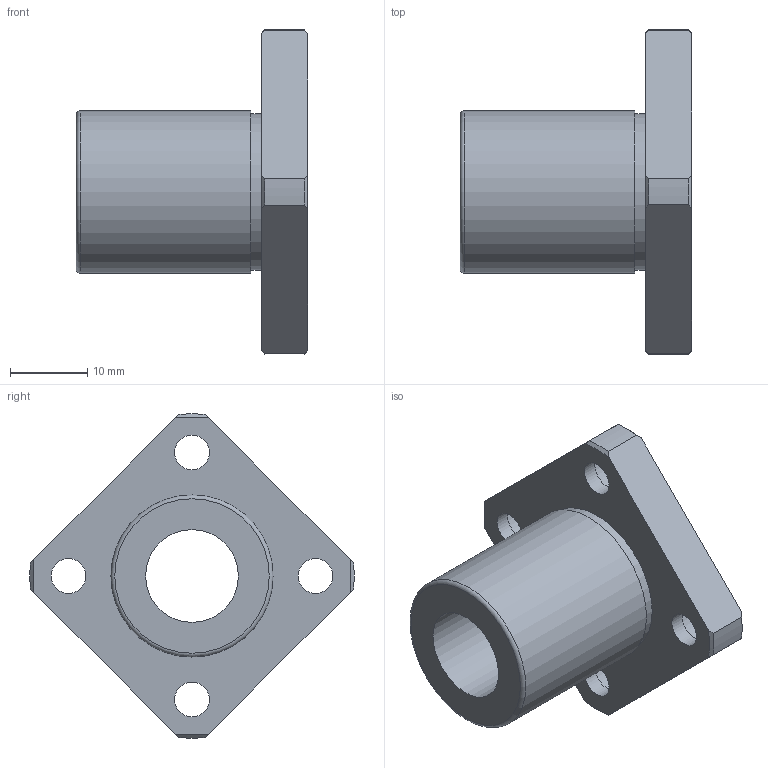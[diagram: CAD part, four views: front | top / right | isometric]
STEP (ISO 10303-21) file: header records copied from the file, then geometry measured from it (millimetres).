
FILE_DESCRIPTION(('STEP AP203'),'1');
FILE_NAME('//192.168.1.1/share/s-4 技術開発/s-4-4_CAD/s-4-4-3_見直し済み/002 修正済み/NF-V/NF-12TVUU.step','2022-03-08T06:43:10',(' '),(' '),'Spatial InterOp 3D',' ',' ');
FILE_SCHEMA(('CONFIG_CONTROL_DESIGN'));
Length unit declared in the file: millimetre
Products named in the file (1): 1
Bounding box: 30 x 41.98 x 41.98 mm (x, y, z)
Volume: 10115.4 mm3; surface area: 5635.7 mm2
Topology: 1 solids, 1 shells, 36 faces, 89 edges, 61 vertices
Faces by surface type: cylinder 15, plane 12, cone 8, torus 1
Full cylindrical faces by diameter (mm): 4.5 x4, 7.5 x4, 12 x1, 20.3 x1, 21 x1
Entity records: 1026 total; most frequent: CARTESIAN_POINT 195, DIRECTION 168, ORIENTED_EDGE 142, AXIS2_PLACEMENT_3D 76, EDGE_CURVE 71, EDGE_LOOP 64, VERTEX_POINT 55, FACE_OUTER_BOUND 48
